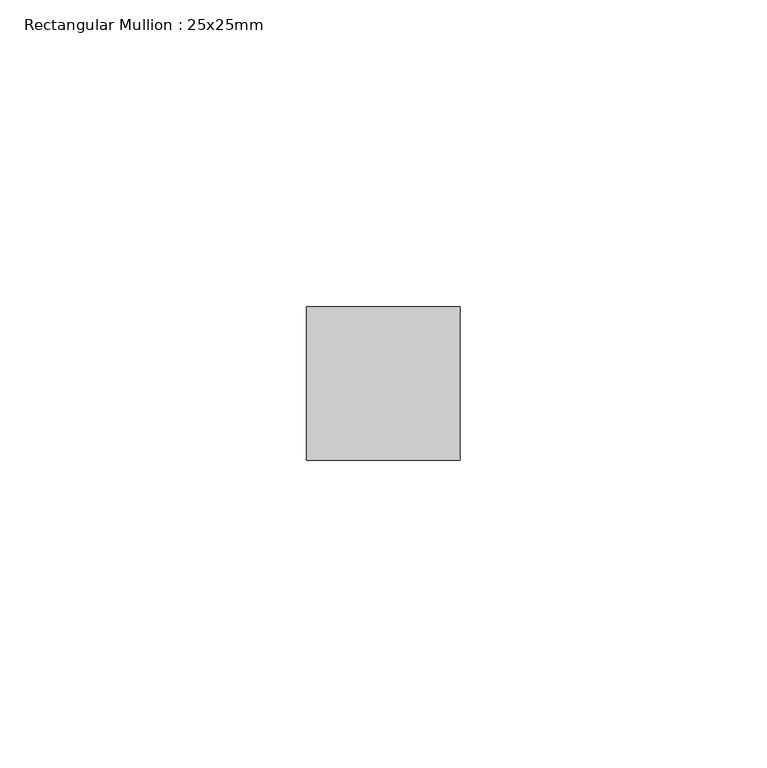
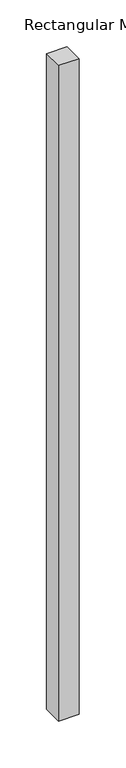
"""IFC4 building model written with IfcOpenShell, lengths in millimetres: member geometry, Rectangular Mullion : 25x25mm."""

from ifc_helpers import new_model, si_unit, frame, origin, place, context, project, spatial, polyline, outline, extrude, source, transform, mapped, element, save


def rectangular_mullion_25x25mm_6f655d27(model_context):
    return source(origin(), model_context, "Body", "SweptSolid", [
        extrude(outline(polyline([(0.0, 0.5), (0.0, -24.5), (-25.0, -24.5), (-25.0, 0.5), (0.0, 0.5)])), frame((0.0, 0.0, -851.7857145), z_axis=(0.0, 0.0, 1.0), x_axis=(1.0, 0.0, 0.0)), (0.0, 0.0, 1.0), 851.7857145),
    ])


if __name__ == "__main__":
    model = new_model("IFC4")
    model_context = context("Model", 3, world=origin())
    ifc_project = project(units=[si_unit("LENGTHUNIT", "METRE", prefix="MILLI")], contexts=[model_context])
    site = spatial("IfcSite", under=ifc_project)
    building = spatial("IfcBuilding", under=site)
    placement = place(None, origin())
    rectangular_mullion_25x25mm_shape = rectangular_mullion_25x25mm_6f655d27(model_context)
    element("IfcMember", 1, ObjectType="Rectangular Mullion : 25x25mm", at=placement, inside=building, context=model_context, shape_type="MappedRepresentation", body=[
        mapped(rectangular_mullion_25x25mm_shape, transform((0.0, 0.0, 0.0), x_axis=(1.0, 0.0, 0.0), y_axis=(0.0, 1.0, 0.0), z_axis=(0.0, 0.0, 1.0))),
    ])
    save(model, "model.ifc")
